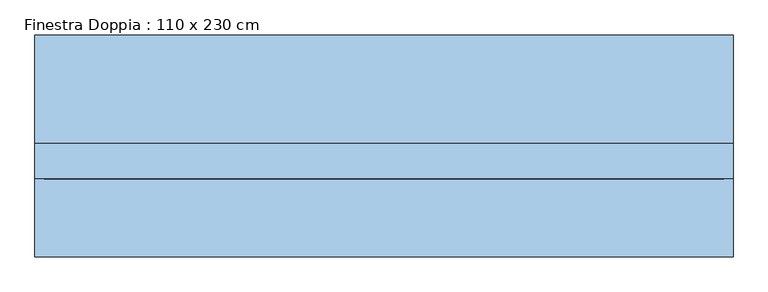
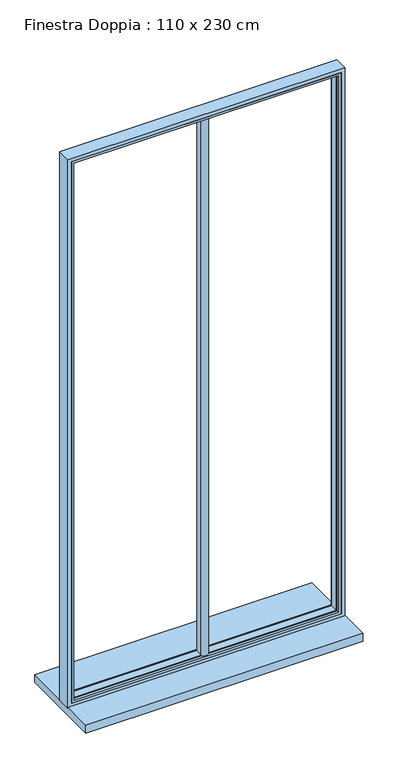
"""IFC4 building model written with IfcOpenShell, lengths in millimetres: window geometry, Finestra Doppia : 110 x 230 cm."""

import ifcopenshell
import ifcopenshell.guid

model = None  # the IFC model being written
_history = None  # IfcOwnerHistory: only IFC2X3 demands one
_inside = {}  # id of a spatial element -> (the spatial element, [elements in it])
_under = {}  # id of a project, library or spatial element -> (it, [spatial elements below it])
_declared = {}  # id of a project -> (the project, [libraries it declares])
_typed = {}  # id of a type object -> (the type object, [elements of that type])
_made_of = {}  # id of a material, layer set ... -> (it, [elements and type objects made of it])


def new_model(schema):
    """Start an empty IFC model of exactly this schema.

    Asked for "IFC4X3", IfcOpenShell would pick the latest addendum, in which some entities
    have other attributes; the version numbers below select the first issue.
    IFC2X3 requires an IfcOwnerHistory on every rooted entity: one is made here for all.
    """
    global model, _history
    if schema == "IFC4X3":
        model = ifcopenshell.file(schema_version=(4, 3, 0, 0))
    else:
        model = ifcopenshell.file(schema=schema)
    _inside.clear()
    _under.clear()
    _declared.clear()
    _typed.clear()
    _made_of.clear()
    _history = None
    if model.schema == "IFC2X3":
        org = make("IfcOrganization", Name="unknown")
        user = make(
            "IfcPersonAndOrganization",
            ThePerson=make("IfcPerson", FamilyName="unknown"),
            TheOrganization=org,
        )
        app = make(
            "IfcApplication",
            ApplicationDeveloper=org,
            Version="unknown",
            ApplicationFullName="unknown",
            ApplicationIdentifier="unknown",
        )
        _history = make(
            "IfcOwnerHistory",
            OwningUser=user,
            OwningApplication=app,
            ChangeAction="ADDED",
            CreationDate=0,
        )
    return model


def make(cls, **values):
    """One entity of the class cls with the attributes given. An attribute that is None is left unset."""
    return model.create_entity(
        cls, **{name: value for name, value in values.items() if value is not None}
    )


def rooted(cls, **values):
    """An entity with a GlobalId (a new one), such as an element, a storey or a relation."""
    return make(cls, GlobalId=ifcopenshell.guid.new(), OwnerHistory=_history, **values)


def si_unit(unit_type, name, prefix=None):
    """IfcSIUnit, for example si_unit("LENGTHUNIT", "METRE", prefix="MILLI")."""
    return make("IfcSIUnit", UnitType=unit_type, Prefix=prefix, Name=name)


def assignment(units):
    """IfcUnitAssignment: the units of a project."""
    return None if units is None else make("IfcUnitAssignment", Units=units)


def point(xyz):
    """IfcCartesianPoint."""
    return None if xyz is None else make("IfcCartesianPoint", Coordinates=xyz)


def direction(xyz):
    """IfcDirection."""
    return None if xyz is None else make("IfcDirection", DirectionRatios=xyz)


def frame(location, z_axis=None, x_axis=None):
    """IfcAxis2Placement3D, a coordinate frame: its origin and axes. An axis left out is left unset."""
    return make(
        "IfcAxis2Placement3D",
        Location=point(location),
        Axis=direction(z_axis),
        RefDirection=direction(x_axis),
    )


def frame_2d(location, x_axis=None):
    """IfcAxis2Placement2D, a coordinate frame in the plane: its origin and x axis."""
    return make(
        "IfcAxis2Placement2D", Location=point(location), RefDirection=direction(x_axis)
    )


def origin():
    """The frame at (0, 0, 0) with its axes left unset."""
    return frame((0.0, 0.0, 0.0))


def place(relative_to, where):
    """IfcLocalPlacement: puts the frame where relative to a parent placement (None: the world)."""
    return make(
        "IfcLocalPlacement", PlacementRelTo=relative_to, RelativePlacement=where
    )


def context(
    kind, dimensions, precision=None, world=None, true_north=None, identifier=None
):
    """IfcGeometricRepresentationContext, for example the 3D "Model" context."""
    return make(
        "IfcGeometricRepresentationContext",
        ContextIdentifier=identifier,
        ContextType=kind,
        CoordinateSpaceDimension=dimensions,
        Precision=precision,
        WorldCoordinateSystem=world,
        TrueNorth=true_north,
    )


def project(units=None, contexts=None):
    """IfcProject with its units and contexts."""
    return rooted(
        "IfcProject",
        Name="project",
        RepresentationContexts=contexts,
        UnitsInContext=assignment(units),
    )


def spatial(cls, under=None, at=None, **own):
    """A site, building, storey or space (cls), placed at a placement, below another one or the project."""
    s = rooted(cls, ObjectPlacement=at, **own)
    if under is not None:
        _under.setdefault(under.id(), (under, []))[1].append(s)
    return s


def polyline(points):
    """IfcPolyline through the points."""
    return make("IfcPolyline", Points=[point(p) for p in points])


def circle_curve(where, radius):
    """IfcCircle in the frame where."""
    return make("IfcCircle", Position=where, Radius=radius)


def ellipse_curve(where, semi_axis1, semi_axis2):
    """IfcEllipse in the frame where."""
    return make(
        "IfcEllipse", Position=where, SemiAxis1=semi_axis1, SemiAxis2=semi_axis2
    )


def trimmed(basis, trim1, trim2, sense, master):
    """IfcTrimmedCurve: the piece of a basis curve between two trims."""
    return make(
        "IfcTrimmedCurve",
        BasisCurve=basis,
        Trim1=trim1,
        Trim2=trim2,
        SenseAgreement=sense,
        MasterRepresentation=master,
    )


def segment(curve, same_sense, transition):
    """IfcCompositeCurveSegment."""
    return make(
        "IfcCompositeCurveSegment",
        Transition=transition,
        SameSense=same_sense,
        ParentCurve=curve,
    )


def composite_curve(segments, self_intersect=None):
    """IfcCompositeCurve: segments joined end to end."""
    return make("IfcCompositeCurve", Segments=segments, SelfIntersect=self_intersect)


def outline(outer, holes=None, kind="AREA"):
    """IfcArbitraryClosedProfileDef: a profile drawn as a closed curve; with holes, ...WithVoids."""
    if holes is None:
        return make("IfcArbitraryClosedProfileDef", ProfileType=kind, OuterCurve=outer)
    return make(
        "IfcArbitraryProfileDefWithVoids",
        ProfileType=kind,
        OuterCurve=outer,
        InnerCurves=holes,
    )


def extrude(swept, where, along, depth):
    """IfcExtrudedAreaSolid: the profile swept, set in the frame where, extruded along a direction by depth."""
    return make(
        "IfcExtrudedAreaSolid",
        SweptArea=swept,
        Position=where,
        ExtrudedDirection=direction(along),
        Depth=depth,
    )


def faces_of(points, faces, orient=None, outer=None):
    """IfcFace entities. A face is a list of loops; a loop is a list of indices into points, from 0.

    orient and outer hold one flag for each loop. By default every Orientation is true, the
    first loop of a face is its IfcFaceOuterBound and the others are IfcFaceBound.
    """
    made = []
    for i, loops in enumerate(faces):
        bounds = []
        for j, loop in enumerate(loops):
            is_outer = j == 0 if outer is None else outer[i][j]
            bounds.append(
                make(
                    "IfcFaceOuterBound" if is_outer else "IfcFaceBound",
                    Bound=make("IfcPolyLoop", Polygon=[points[k] for k in loop]),
                    Orientation=True if orient is None else orient[i][j],
                )
            )
        made.append(make("IfcFace", Bounds=bounds))
    return made


def faceted_brep(points, faces, orient=None, outer=None, voids=None):
    """IfcFacetedBrep: a solid bounded by flat faces; with voids (closed shells), ...WithVoids."""
    shared = [point(p) for p in points]
    hull = make("IfcClosedShell", CfsFaces=faces_of(shared, faces, orient, outer))
    if voids is None:
        return make("IfcFacetedBrep", Outer=hull)
    return make(
        "IfcFacetedBrepWithVoids",
        Outer=hull,
        Voids=[
            make(cls, CfsFaces=faces_of(shared, fs, o, b)) for cls, fs, o, b in voids
        ],
    )


def shape(context_of_items, identifier, shape_type, items):
    """IfcShapeRepresentation: the items that make up one representation, for example the "Body"."""
    return make(
        "IfcShapeRepresentation",
        ContextOfItems=context_of_items,
        RepresentationIdentifier=identifier,
        RepresentationType=shape_type,
        Items=items,
    )


def source(mapping_origin, context_of_items, identifier, shape_type, items):
    """IfcRepresentationMap: a shape defined once, which mapped items show again and again."""
    return make(
        "IfcRepresentationMap",
        MappingOrigin=mapping_origin,
        MappedRepresentation=shape(context_of_items, identifier, shape_type, items),
    )


def transform(
    local_origin,
    x_axis=None,
    y_axis=None,
    z_axis=None,
    scale=None,
    scale2=None,
    scale3=None,
    uniform=True,
):
    """IfcCartesianTransformationOperator3D, or its non-uniform kind. x_axis, y_axis, z_axis: its Axis1, 2, 3."""
    if uniform:
        return make(
            "IfcCartesianTransformationOperator3D",
            Axis1=direction(x_axis),
            Axis2=direction(y_axis),
            LocalOrigin=point(local_origin),
            Scale=scale,
            Axis3=direction(z_axis),
        )
    return make(
        "IfcCartesianTransformationOperator3DnonUniform",
        Axis1=direction(x_axis),
        Axis2=direction(y_axis),
        LocalOrigin=point(local_origin),
        Scale=scale,
        Axis3=direction(z_axis),
        Scale2=scale2,
        Scale3=scale3,
    )


def mapped(mapping_source, mapping_target):
    """IfcMappedItem: shows the shape of a source again, moved by a transform."""
    return make(
        "IfcMappedItem", MappingSource=mapping_source, MappingTarget=mapping_target
    )


def made_of(thing, what):
    """Note that an element or type object is made of a material, layer set ...; save() writes the relation."""
    if what is not None:
        _made_of.setdefault(what.id(), (what, []))[1].append(thing)
    return thing


def element(
    cls,
    number,
    at=None,
    inside=None,
    cuts=None,
    type_object=None,
    material=None,
    context=None,
    identifier="Body",
    shape_type=None,
    held_by="IfcProductDefinitionShape",
    body=None,
    shapes=None,
    **own,
):
    """One element of the class cls, such as IfcWall. Its Tag is "e" and its number.

    at: its placement. inside: the storey or other place that contains it. cuts: it is an
    opening in that element (IfcRelVoidsElement). A single representation is given by context,
    identifier, shape_type and body (its items); several are given by shapes. held_by: the class
    of the entity that holds the representations. save() writes the other relations.
    """
    e = rooted(cls, Tag="e%d" % number, ObjectPlacement=at, **own)
    if body is not None:
        shapes = [shape(context, identifier, shape_type, body)]
    if shapes is not None:
        e.Representation = make(held_by, Representations=shapes)
    if inside is not None:
        _inside.setdefault(inside.id(), (inside, []))[1].append(e)
    if cuts is not None:
        rooted(
            "IfcRelVoidsElement", RelatingBuildingElement=cuts, RelatedOpeningElement=e
        )
    if type_object is not None:
        _typed.setdefault(type_object.id(), (type_object, []))[1].append(e)
    return made_of(e, material)


def aggregate(whole, parts):
    """IfcRelAggregates: a whole, such as a stair, and the parts it consists of."""
    return rooted("IfcRelAggregates", RelatingObject=whole, RelatedObjects=parts)


def save(model, path):
    """Write the relations noted so far, then the file.

    IfcRelAggregates (storeys below a building ...), IfcRelContainedInSpatialStructure (elements
    in a storey), IfcRelDefinesByType, IfcRelAssociatesMaterial and IfcRelDeclares: one each for
    every whole, place, type object, material and project.
    """
    for whole, parts in _under.values():
        aggregate(whole, parts)
    for where, things in _inside.values():
        rooted(
            "IfcRelContainedInSpatialStructure",
            RelatedElements=things,
            RelatingStructure=where,
        )
    for kind, things in _typed.values():
        rooted("IfcRelDefinesByType", RelatedObjects=things, RelatingType=kind)
    for what, things in _made_of.values():
        rooted("IfcRelAssociatesMaterial", RelatedObjects=things, RelatingMaterial=what)
    for by, libraries in _declared.values():
        rooted("IfcRelDeclares", RelatingContext=by, RelatedDefinitions=libraries)
    model.write(path)


def plane_surface(at):
    """IfcPlane: the flat surface through the origin of the frame at, square to its z axis."""
    return make("IfcPlane", Position=at)


def cylinder_surface(at, radius):
    """IfcCylindricalSurface: all points at the distance radius from the z axis of the frame at."""
    return make("IfcCylindricalSurface", Position=at, Radius=radius)


def advanced_brep(points, edges, surfaces, faces):
    """IfcAdvancedBrep: a solid bounded by faces that lie on surfaces and meet in shared edges.

    An edge is (start, end): straight between two places in points (the first is 0);
    or (start, end, curve); or (start, end, curve, False) where it runs against its curve.
    A face is (place in surfaces, loops), or (place, loops, False) where it looks against
    its surface's normal. A loop lists edges by number (the first is 1), with a minus sign
    where the edge is run from its end to its start. The first loop is the outer one.
    """
    corners = [point(p) for p in points]
    vertices = [make("IfcVertexPoint", VertexGeometry=c) for c in corners]
    made = []
    for start, end, *more in edges:
        made.append(
            make(
                "IfcEdgeCurve",
                EdgeStart=vertices[start],
                EdgeEnd=vertices[end],
                EdgeGeometry=more[0] if more else make("IfcPolyline", Points=[corners[start], corners[end]]),
                SameSense=more[1] if len(more) > 1 else True,
            )
        )
    hull = []
    for where, loops, *sense in faces:
        bounds = []
        for j, loop in enumerate(loops):
            ring = [make("IfcOrientedEdge", EdgeElement=made[abs(k) - 1], Orientation=k > 0) for k in loop]
            bounds.append(
                make(
                    "IfcFaceOuterBound" if j == 0 else "IfcFaceBound",
                    Bound=make("IfcEdgeLoop", EdgeList=ring),
                    Orientation=True,
                )
            )
        hull.append(make("IfcAdvancedFace", Bounds=bounds, FaceSurface=surfaces[where], SameSense=sense[0] if sense else True))
    return make("IfcAdvancedBrep", Outer=make("IfcClosedShell", CfsFaces=hull))


def finestra_doppia_110_x_230_cm_898ac0b4(model_context):
    return source(origin(), model_context, "Body", "SolidModel", [
        extrude(outline(composite_curve([segment(polyline([(-15.0, -10.0), (-15.0, 20.0)]), True, "CONTINUOUS"), segment(trimmed(circle_curve(frame_2d((0.0, 7.0384974)), 19.8242415), [point((-15.0, 20.0))], [point((15.0, 20.0))], False, "CARTESIAN"), True, "CONTINUOUS"), segment(polyline([(15.0, 20.0), (15.0, -10.0)]), True, "CONTINUOUS"), segment(trimmed(circle_curve(frame_2d((0.0, 5.6850663)), 21.7030253), [point((15.0, -10.0))], [point((-15.0, -10.0))], False, "CARTESIAN"), True, "CONTINUOUS")], self_intersect=False)), frame((0.0, 0.0, 900.0), z_axis=(0.0, 0.0, 1.0), x_axis=(1.0, 0.0, 0.0)), (0.0, 0.0, 1.0), 2275.0349779),
        faceted_brep([(-535.0, -20.0, 3185.0349779), (-535.0, 20.0, 3185.0349779), (-535.0, 20.0, 915.0), (-535.0, -20.0, 915.0), (535.0, 20.0, 3185.0349779), (535.0, 20.0, 915.0), (-520.0, 20.0, 3170.0349779), (-520.0, 20.0, 930.0), (520.0, 20.0, 930.0), (520.0, 20.0, 3170.0349779), (535.0, -20.0, 915.0), (535.0, -20.0, 3185.0349779), (525.0, -20.0, 3175.0349779), (525.0, -20.0, 925.0), (-525.0, -20.0, 925.0), (-525.0, -20.0, 3175.0349779), (-525.0, -10.0, 3175.0349779), (-525.0, -10.0, 925.0), (525.0, -10.0, 925.0), (525.0, -10.0, 3175.0349779), (520.0, -10.0, 3170.0349779), (520.0, -10.0, 930.0), (-520.0, -10.0, 930.0), (-520.0, -10.0, 3170.0349779)], [[[0, 1, 2, 3]], [[4, 5, 2, 1], [6, 7, 8, 9]], [[3, 2, 5, 10]], [[0, 3, 10, 11], [12, 13, 14, 15]], [[16, 15, 14, 17]], [[17, 14, 13, 18]], [[16, 17, 18, 19], [20, 21, 22, 23]], [[6, 23, 22, 7]], [[7, 22, 21, 8]], [[10, 5, 4, 11]], [[18, 13, 12, 19]], [[8, 21, 20, 9]], [[11, 4, 1, 0]], [[19, 12, 15, 16]], [[9, 20, 23, 6]]]),
        advanced_brep(
        [(-550.0, 35.0, 3200.0), (-550.0, 35.0, 900.0), (-550.0, -20.0, 900.0), (-550.0, -20.0, 3200.0), (550.0, 35.0, 3200.0), (550.0, 35.0, 900.0), (-530.0, 35.0, 920.0), (530.0, 35.0, 920.0), (530.0, 35.0, 3180.0), (-530.0, 35.0, 3180.0), (550.0, -20.0, 900.0), (550.0, -20.0, 3200.0), (-535.0, -20.0, 3185.0), (535.0, -20.0, 3185.0), (535.0, -20.0, 915.0), (-535.0, -20.0, 915.0), (-535.0, 20.0, 3185.0), (-535.0, 20.0, 915.0), (535.0, 20.0, 915.0), (535.0, 20.0, 3185.0), (-525.0, 20.0, 3175.0), (525.0, 20.0, 3175.0), (525.0, 20.0, 925.0), (-525.0, 20.0, 925.0), (-525.0, 30.0, 3175.0), (-525.0, 30.0, 925.0), (525.0, 30.0, 925.0), (525.0, 30.0, 3175.0)],
        [
            (0, 1),
            (1, 2),
            (2, 3),
            (3, 0),
            (0, 4),
            (4, 5),
            (5, 1),
            (6, 7),
            (7, 8),
            (8, 9),
            (9, 6),
            (5, 10),
            (10, 2),
            (10, 11),
            (11, 3),
            (12, 13),
            (13, 14),
            (14, 15),
            (15, 12),
            (16, 12),
            (15, 17),
            (17, 16),
            (14, 18),
            (18, 17),
            (18, 19),
            (19, 16),
            (20, 21),
            (21, 22),
            (22, 23),
            (23, 20),
            (24, 20),
            (23, 25),
            (25, 24),
            (22, 26),
            (26, 25),
            (9, 24, ellipse_curve(frame((-530.0, 30.0, 3180.0), z_axis=(-0.7071067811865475, 0.0, -0.7071067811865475), x_axis=(-0.7071067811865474, 0.0, 0.7071067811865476)), 7.0710678, 5.0)),
            (25, 6, ellipse_curve(frame((-530.0, 30.0, 920.0), z_axis=(-0.7071067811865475, 0.0, 0.7071067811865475), x_axis=(0.7071067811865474, 0.0, 0.7071067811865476)), 7.0710678, 5.0)),
            (26, 7, ellipse_curve(frame((530.0, 30.0, 920.0), z_axis=(-0.7071067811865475, 0.0, -0.7071067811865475), x_axis=(-0.7071067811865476, 0.0, 0.7071067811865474)), 7.0710678, 5.0)),
            (4, 11),
            (13, 19),
            (21, 27),
            (27, 26),
            (27, 8, ellipse_curve(frame((530.0, 30.0, 3180.0), z_axis=(0.7071067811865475, 0.0, -0.7071067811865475), x_axis=(-0.7071067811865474, 0.0, -0.7071067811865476)), 7.0710678, 5.0)),
            (24, 27),
        ],
        [
            plane_surface(frame((-550.0, 0.0, 3200.0), z_axis=(-1.0, 0.0, 0.0), x_axis=(0.0, 0.0, -1.0))),
            plane_surface(frame((530.0, 35.0, 3180.0), z_axis=(0.0, 1.0, 0.0), x_axis=(-1.0, 0.0, 0.0))),
            plane_surface(frame((-550.0, 0.0, 900.0), z_axis=(0.0, 0.0, -1.0), x_axis=(1.0, 0.0, 0.0))),
            plane_surface(frame((550.0, -20.0, 3200.0), z_axis=(0.0, -1.0, 0.0), x_axis=(-1.0, 0.0, 0.0))),
            plane_surface(frame((-535.0, -20.0, 3185.0), z_axis=(1.0, 0.0, 0.0), x_axis=(0.0, 0.0, -1.0))),
            plane_surface(frame((-535.0, -20.0, 915.0), z_axis=(0.0, 0.0, 1.0), x_axis=(1.0, 0.0, 0.0))),
            plane_surface(frame((535.0, 20.0, 3185.0), z_axis=(0.0, -1.0, 0.0), x_axis=(-1.0, 0.0, 0.0))),
            plane_surface(frame((-525.0, 20.0, 3175.0), z_axis=(1.0, 0.0, 0.0), x_axis=(0.0, 0.0, -1.0))),
            plane_surface(frame((-525.0, 20.0, 925.0), z_axis=(0.0, 0.0, 1.0), x_axis=(1.0, 0.0, 0.0))),
            cylinder_surface(frame((-530.0, 30.0, 3200.0), z_axis=(0.0, 0.0, 1.0), x_axis=(1.0, 0.0, 0.0)), 5.0),
            cylinder_surface(frame((-550.0, 30.0, 920.0), z_axis=(-1.0, 0.0, 0.0), x_axis=(0.0, 0.0, 1.0)), 5.0),
            plane_surface(frame((550.0, 0.0, 900.0), z_axis=(1.0, 0.0, 0.0), x_axis=(0.0, 0.0, 1.0))),
            plane_surface(frame((535.0, -20.0, 915.0), z_axis=(-1.0, 0.0, 0.0), x_axis=(0.0, 0.0, 1.0))),
            plane_surface(frame((525.0, 20.0, 925.0), z_axis=(-1.0, 0.0, 0.0), x_axis=(0.0, 0.0, 1.0))),
            cylinder_surface(frame((530.0, 30.0, 900.0), z_axis=(0.0, 0.0, -1.0), x_axis=(-1.0, 0.0, 0.0)), 5.0),
            plane_surface(frame((550.0, 0.0, 3200.0), z_axis=(0.0, 0.0, 1.0), x_axis=(-1.0, 0.0, 0.0))),
            plane_surface(frame((535.0, -20.0, 3185.0), z_axis=(0.0, 0.0, -1.0), x_axis=(-1.0, 0.0, 0.0))),
            plane_surface(frame((525.0, 20.0, 3175.0), z_axis=(0.0, 0.0, -1.0), x_axis=(-1.0, 0.0, 0.0))),
            cylinder_surface(frame((550.0, 30.0, 3180.0), z_axis=(1.0, 0.0, 0.0), x_axis=(0.0, 0.0, -1.0)), 5.0),
        ],
        [
            (0, [[1, 2, 3, 4]]),
            (1, [[5, 6, 7, -1], [8, 9, 10, 11]]),
            (2, [[-2, -7, 12, 13]]),
            (3, [[-13, 14, 15, -3], [16, 17, 18, 19]]),
            (4, [[20, -19, 21, 22]]),
            (5, [[-21, -18, 23, 24]]),
            (6, [[-24, 25, 26, -22], [27, 28, 29, 30]]),
            (7, [[31, -30, 32, 33]]),
            (8, [[-32, -29, 34, 35]]),
            (9, [[36, -33, 37, -11]]),
            (10, [[-37, -35, 38, -8]]),
            (11, [[-12, -6, 39, -14]]),
            (12, [[-23, -17, 40, -25]]),
            (13, [[-34, -28, 41, 42]]),
            (14, [[-38, -42, 43, -9]]),
            (15, [[-39, -5, -4, -15]]),
            (16, [[-40, -16, -20, -26]]),
            (17, [[-41, -27, -31, 44]]),
            (18, [[-43, -44, -36, -10]]),
        ],
    ),
        extrude(outline(polyline([(550.0, -143.1372612), (-550.0, -143.1372612), (-550.0, 206.8627388), (550.0, 206.8627388), (550.0, -143.1372612)])), frame((0.0, 0.0, 870.0), z_axis=(0.0, 0.0, 1.0), x_axis=(1.0, 0.0, 0.0)), (0.0, 0.0, 1.0), 33.0),
    ])


if __name__ == "__main__":
    model = new_model("IFC4")
    model_context = context("Model", 3, world=origin())
    ifc_project = project(units=[si_unit("LENGTHUNIT", "METRE", prefix="MILLI")], contexts=[model_context])
    site = spatial("IfcSite", under=ifc_project)
    building = spatial("IfcBuilding", under=site)
    placement = place(None, origin())
    finestra_doppia_110_x_230_cm_shape = finestra_doppia_110_x_230_cm_898ac0b4(model_context)
    element("IfcWindow", 1, ObjectType="Finestra Doppia : 110 x 230 cm", at=placement, inside=building, context=model_context, shape_type="MappedRepresentation", body=[
        mapped(finestra_doppia_110_x_230_cm_shape, transform((0.0, 0.0, 0.0), x_axis=(1.0, 0.0, 0.0), y_axis=(0.0, 1.0, 0.0), z_axis=(0.0, 0.0, 1.0))),
    ])
    save(model, "model.ifc")
